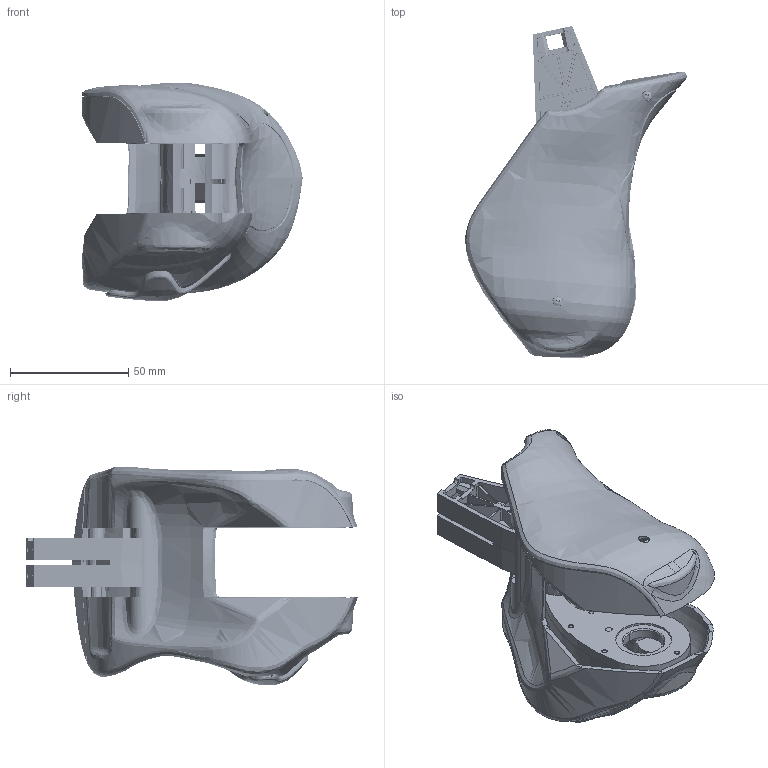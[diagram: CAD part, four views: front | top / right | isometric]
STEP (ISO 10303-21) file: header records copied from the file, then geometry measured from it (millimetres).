
FILE_DESCRIPTION (( 'STEP AP203' ), '1' );
FILE_NAME ('Tibia_leger_Default_sldprt.STEP', '2024-06-17T07:20:55', ( '' ), ( '' ), 'SwSTEP 2.0', 'SolidWorks 2023', '' );
FILE_SCHEMA (( 'CONFIG_CONTROL_DESIGN' ));
Products named in the file (1): Tibia_leger_Default_sldprt
Bounding box: 93.42 x 140.11 x 92.3 mm (x, y, z)
Surface area: 132511.3 mm2 (no closed solid volume)
Topology: 0 solids, 30 shells, 5317 faces, 14650 edges, 9558 vertices
Faces by surface type: plane 2188, bspline 1717, cone 957, cylinder 455
Entity records: 460756 total; most frequent: CARTESIAN_POINT 341946, ORIENTED_EDGE 29176, DIRECTION 18036, EDGE_CURVE 14602, VERTEX_POINT 9556, AXIS2_PLACEMENT_3D 6105, B_SPLINE_CURVE_WITH_KNOTS 5949, VECTOR 5826
